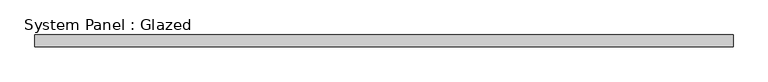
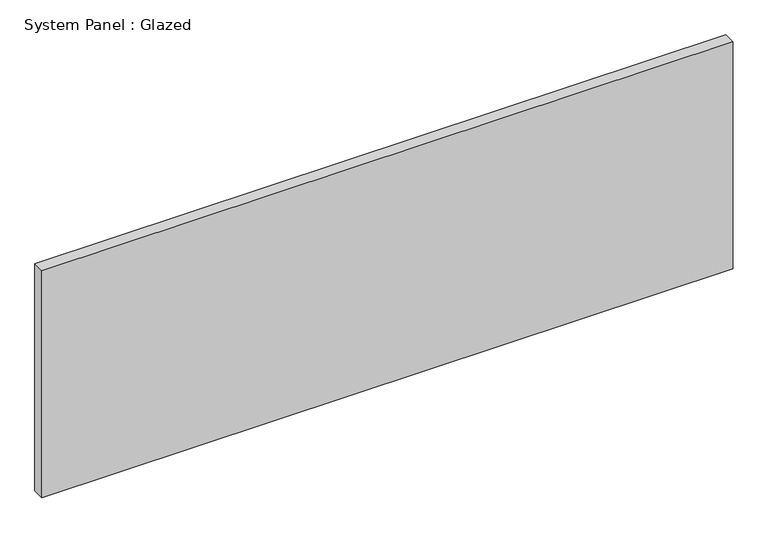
"""IFC4 building model written with IfcOpenShell, lengths in millimetres: plate geometry, System Panel : Glazed."""

from ifc_helpers import new_model, si_unit, origin, origin_with_axes, place, context, project, spatial, polyline, outline, extrude, source, transform, mapped, element, save


def system_panel_glazed_fd84f461(model_context):
    return source(origin(), model_context, "Body", "SweptSolid", [
        extrude(outline(polyline([(727.4093138, 24.5), (-727.4093138, 24.5), (-727.4093138, 49.5), (727.4093138, 49.5), (727.4093138, 24.5)])), origin_with_axes(), (0.0, 0.0, 1.0), 505.0),
    ])


if __name__ == "__main__":
    model = new_model("IFC4")
    model_context = context("Model", 3, world=origin())
    ifc_project = project(units=[si_unit("LENGTHUNIT", "METRE", prefix="MILLI")], contexts=[model_context])
    site = spatial("IfcSite", under=ifc_project)
    building = spatial("IfcBuilding", under=site)
    placement = place(None, origin())
    system_panel_glazed_shape = system_panel_glazed_fd84f461(model_context)
    element("IfcPlate", 1, ObjectType="System Panel : Glazed", at=placement, inside=building, context=model_context, shape_type="MappedRepresentation", body=[
        mapped(system_panel_glazed_shape, transform((0.0, 0.0, 0.0), x_axis=(1.0, 0.0, 0.0), y_axis=(0.0, 1.0, 0.0), z_axis=(0.0, 0.0, 1.0))),
    ])
    save(model, "model.ifc")
